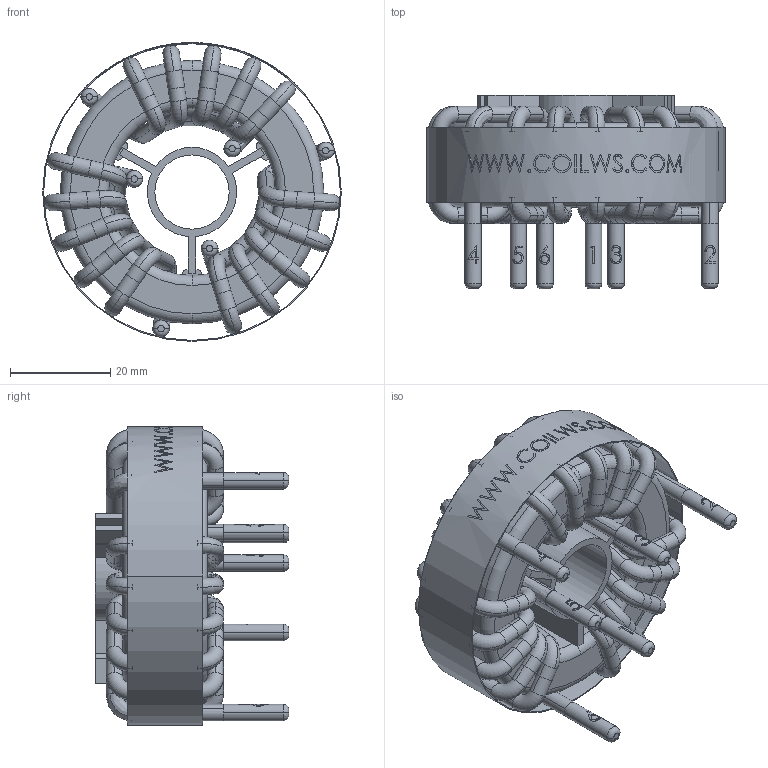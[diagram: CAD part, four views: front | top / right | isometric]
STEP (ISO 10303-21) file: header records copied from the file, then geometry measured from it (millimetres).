
FILE_DESCRIPTION (( 'STEP AP214' ), '1' );
FILE_NAME ('TFR-461U-60A_RevB.STEP', '2022-01-07T13:44:46', ( '' ), ( '' ), 'SwSTEP 2.0', 'SolidWorks 2015', '' );
FILE_SCHEMA (( 'AUTOMOTIVE_DESIGN' ));
Length unit declared in the file: millimetre
Products named in the file (5): TFR-461U-60A_RevB; WRAPPER; CORE; SPACER; COIL
Assembly tree (4 placements, depth 2):
  TFR-461U-60A_RevB
    CORE
    SPACER
    COIL
    WRAPPER
Bounding box: 59.64 x 38.61 x 59.66 mm (x, y, z)
Volume: 34712.2 mm3; surface area: 28482.1 mm2
Topology: 12 solids, 12 shells, 671 faces, 1798 edges, 1172 vertices
Faces by surface type: cylinder 229, bspline 180, torus 140, plane 122
Entity records: 41651 total; most frequent: CARTESIAN_POINT 20365, ORIENTED_EDGE 3596, DIRECTION 3222, EDGE_CURVE 1798, AXIS2_PLACEMENT_3D 1420, VERTEX_POINT 1172, CIRCLE 922, EDGE_LOOP 704
